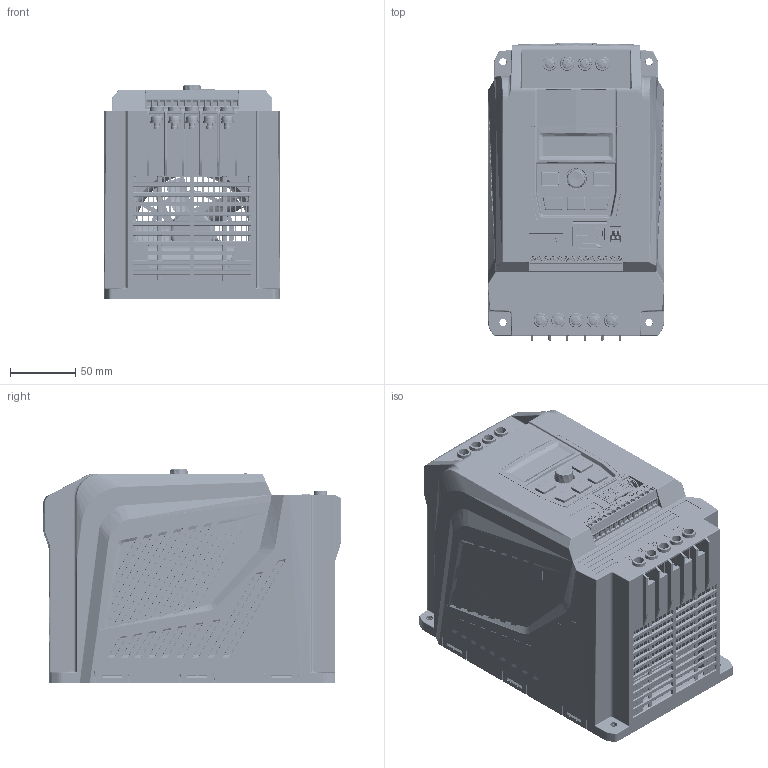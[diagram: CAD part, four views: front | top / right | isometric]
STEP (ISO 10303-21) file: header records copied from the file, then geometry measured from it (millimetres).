
FILE_DESCRIPTION(('STEP AP203'), '1');
FILE_NAME('NCI-G11_P15-4B', '2025-05-20T07:24:34', (' '), (' '), 'C3D Converter', 'C3D Toolkit', '');
FILE_SCHEMA(('CONFIG_CONTROL_DESIGN'));
Length unit declared in the file: millimetre
Bounding box: 135.03 x 228 x 163.79 mm (x, y, z)
Volume: 1053566.4 mm3; surface area: 1153039.7 mm2
Topology: 40 solids, 54 shells, 11692 faces, 30707 edges, 19258 vertices
Faces by surface type: plane 5604, cylinder 2597, bspline 1602, extrusion 739, cone 565, torus 375, sphere 210
Full cylindrical faces by diameter (mm): 0.5 x14, 0.635 x1, 0.762 x2, 0.8 x2, 0.9 x8, 1 x28, 1.1 x4, 1.27 x2, 1.3 x1, 1.4 x16, 1.5 x6, 2 x15, 2.3 x2, 2.5 x8, 2.54 x5, 3 x14, 3.1 x14, 3.3 x5, 3.5 x11, 4 x10, 4.1 x30, 4.2 x2, 4.51 x9, 5 x9, 5.3 x9, 5.7 x1, 6 x1, 6.2 x2, 6.7 x1, 6.8 x1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
Entity records: 599454 total; most frequent: CARTESIAN_POINT 242976, ORIENTED_EDGE 59356, DIRECTION 45244, EDGE_CURVE 29680, VERTEX_POINT 19205, VECTOR 17278, LINE 16539, AXIS2_PLACEMENT_3D 13983
